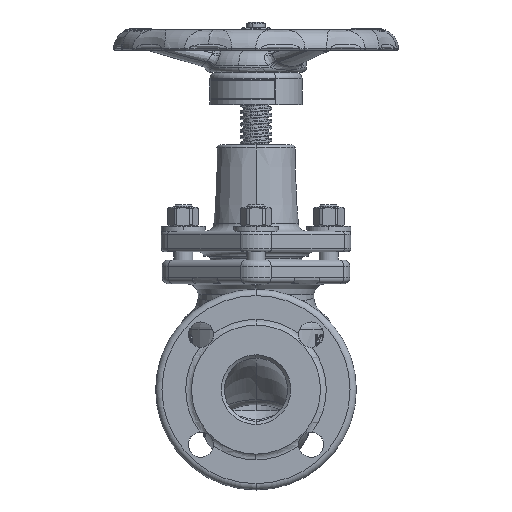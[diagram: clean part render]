
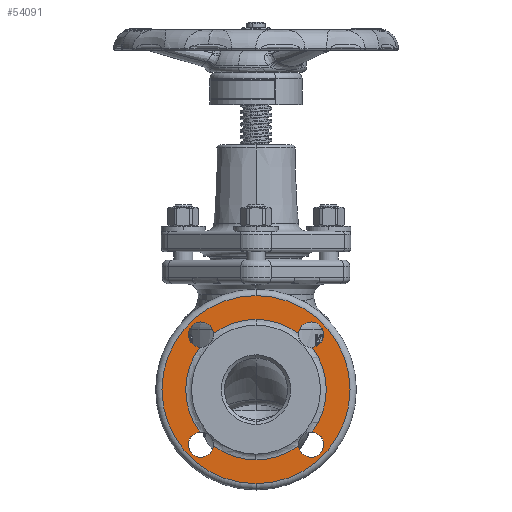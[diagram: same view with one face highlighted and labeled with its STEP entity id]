
A CAD part, left-side view. The second image highlights one B-rep face of the part: STEP entity #54091.
In plain terms, the highlighted planar face has unit normal (-1, 0, 0).
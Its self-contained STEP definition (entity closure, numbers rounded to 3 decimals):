
#6226=CARTESIAN_POINT('',(-80.9,0.,0.));
#6227=DIRECTION('',(-1.,0.,0.));
#6228=DIRECTION('',(0.,0.,1.));
#6229=AXIS2_PLACEMENT_3D('',#6226,#6227,#6228);
#6231=CARTESIAN_POINT('',(-80.9,0.,0.));
#6232=DIRECTION('',(-1.,0.,0.));
#6233=DIRECTION('',(0.,0.,-1.));
#6234=AXIS2_PLACEMENT_3D('',#6231,#6232,#6233);
#6236=CARTESIAN_POINT('',(-80.9,34.825,34.825));
#6237=DIRECTION('',(-1.,0.,0.));
#6238=DIRECTION('',(0.,-0.997,0.078));
#6239=AXIS2_PLACEMENT_3D('',#6236,#6237,#6238);
#6241=CARTESIAN_POINT('',(-80.9,34.825,34.825));
#6242=DIRECTION('',(-1.,0.,0.));
#6243=DIRECTION('',(0.,1.,0.));
#6244=AXIS2_PLACEMENT_3D('',#6241,#6242,#6243);
#6246=CARTESIAN_POINT('',(-80.9,34.825,-34.825));
#6247=DIRECTION('',(-1.,0.,0.));
#6248=DIRECTION('',(0.,0.078,0.997));
#6249=AXIS2_PLACEMENT_3D('',#6246,#6247,#6248);
#6251=CARTESIAN_POINT('',(-80.9,34.825,-34.825));
#6252=DIRECTION('',(-1.,0.,0.));
#6253=DIRECTION('',(0.,1.,0.));
#6254=AXIS2_PLACEMENT_3D('',#6251,#6252,#6253);
#6256=CARTESIAN_POINT('',(-80.9,-34.825,-34.825));
#6257=DIRECTION('',(-1.,0.,0.));
#6258=DIRECTION('',(0.,0.997,-0.078));
#6259=AXIS2_PLACEMENT_3D('',#6256,#6257,#6258);
#6261=CARTESIAN_POINT('',(-80.9,-34.825,-34.825));
#6262=DIRECTION('',(-1.,0.,0.));
#6263=DIRECTION('',(0.,-1.,0.));
#6264=AXIS2_PLACEMENT_3D('',#6261,#6262,#6263);
#6266=CARTESIAN_POINT('',(-80.9,-34.825,34.825));
#6267=DIRECTION('',(-1.,0.,0.));
#6268=DIRECTION('',(0.,-0.078,-0.997));
#6269=AXIS2_PLACEMENT_3D('',#6266,#6267,#6268);
#6271=CARTESIAN_POINT('',(-80.9,-34.825,34.825));
#6272=DIRECTION('',(-1.,0.,0.));
#6273=DIRECTION('',(0.,-1.,0.));
#6274=AXIS2_PLACEMENT_3D('',#6271,#6272,#6273);
#6319=CARTESIAN_POINT('',(-80.9,0.,0.));
#6320=DIRECTION('',(-1.,0.,0.));
#6321=DIRECTION('',(0.,0.,1.));
#6322=AXIS2_PLACEMENT_3D('',#6319,#6320,#6321);
#6329=CARTESIAN_POINT('',(-80.9,0.,0.));
#6330=DIRECTION('',(-1.,0.,0.));
#6331=DIRECTION('',(0.,0.604,-0.797));
#6332=AXIS2_PLACEMENT_3D('',#6329,#6330,#6331);
#6385=CARTESIAN_POINT('',(-80.9,0.,0.));
#6386=DIRECTION('',(-1.,0.,0.));
#6387=DIRECTION('',(0.,0.797,0.604));
#6388=AXIS2_PLACEMENT_3D('',#6385,#6386,#6387);
#6485=CARTESIAN_POINT('',(-80.9,0.,0.));
#6486=DIRECTION('',(1.,0.,0.));
#6487=DIRECTION('',(0.,-0.604,-0.797));
#6488=AXIS2_PLACEMENT_3D('',#6485,#6486,#6487);
#6505=CARTESIAN_POINT('',(-80.9,0.,0.));
#6506=DIRECTION('',(1.,0.,0.));
#6507=DIRECTION('',(0.,0.,1.));
#6508=AXIS2_PLACEMENT_3D('',#6505,#6506,#6507);
#6561=CARTESIAN_POINT('',(-80.9,0.,0.));
#6562=DIRECTION('',(1.,0.,0.));
#6563=DIRECTION('',(0.,-0.797,0.604));
#6564=AXIS2_PLACEMENT_3D('',#6561,#6562,#6563);
#40041=CARTESIAN_POINT('',(-80.9,0.,59.5));
#40042=CARTESIAN_POINT('',(-80.9,0.,-59.5));
#40043=VERTEX_POINT('',#40041);
#40044=VERTEX_POINT('',#40042);
#40697=CARTESIAN_POINT('',(-80.9,0.,44.466));
#40698=VERTEX_POINT('',#40697);
#40701=CARTESIAN_POINT('',(-80.9,0.,-44.466));
#40702=VERTEX_POINT('',#40701);
#41807=CARTESIAN_POINT('',(-80.9,-42.825,34.825));
#41808=CARTESIAN_POINT('',(-80.9,-26.849,35.445));
#41809=VERTEX_POINT('',#41807);
#41810=VERTEX_POINT('',#41808);
#41811=CARTESIAN_POINT('',(-80.9,-35.445,26.849));
#41812=VERTEX_POINT('',#41811);
#41818=CARTESIAN_POINT('',(-80.9,-42.825,-34.825));
#41819=CARTESIAN_POINT('',(-80.9,-35.445,-26.849));
#41820=VERTEX_POINT('',#41818);
#41821=VERTEX_POINT('',#41819);
#41822=CARTESIAN_POINT('',(-80.9,-26.849,-35.445));
#41823=VERTEX_POINT('',#41822);
#41829=CARTESIAN_POINT('',(-80.9,35.445,-26.849));
#41830=CARTESIAN_POINT('',(-80.9,42.825,-34.825));
#41831=VERTEX_POINT('',#41829);
#41832=VERTEX_POINT('',#41830);
#41833=CARTESIAN_POINT('',(-80.9,26.849,-35.445));
#41834=VERTEX_POINT('',#41833);
#41840=CARTESIAN_POINT('',(-80.9,26.849,35.445));
#41841=CARTESIAN_POINT('',(-80.9,42.825,34.825));
#41842=VERTEX_POINT('',#41840);
#41843=VERTEX_POINT('',#41841);
#41844=CARTESIAN_POINT('',(-80.9,35.445,26.849));
#41845=VERTEX_POINT('',#41844);
#54051=CARTESIAN_POINT('',(-80.9,0.,0.));
#54052=DIRECTION('',(-1.,0.,0.));
#54053=DIRECTION('',(0.,0.,1.));
#54054=AXIS2_PLACEMENT_3D('',#54051,#54052,#54053);
#54055=PLANE('',#54054);
#54056=ORIENTED_EDGE('',*,*,#54041,.F.);
#54058=ORIENTED_EDGE('',*,*,#54057,.F.);
#54059=EDGE_LOOP('',(#54056,#54058));
#54060=FACE_OUTER_BOUND('',#54059,.F.);
#54062=ORIENTED_EDGE('',*,*,#54061,.T.);
#54064=ORIENTED_EDGE('',*,*,#54063,.T.);
#54066=ORIENTED_EDGE('',*,*,#54065,.T.);
#54068=ORIENTED_EDGE('',*,*,#54067,.T.);
#54070=ORIENTED_EDGE('',*,*,#54069,.T.);
#54072=ORIENTED_EDGE('',*,*,#54071,.T.);
#54074=ORIENTED_EDGE('',*,*,#54073,.F.);
#54076=ORIENTED_EDGE('',*,*,#54075,.T.);
#54078=ORIENTED_EDGE('',*,*,#54077,.T.);
#54080=ORIENTED_EDGE('',*,*,#54079,.F.);
#54082=ORIENTED_EDGE('',*,*,#54081,.T.);
#54084=ORIENTED_EDGE('',*,*,#54083,.T.);
#54086=ORIENTED_EDGE('',*,*,#54085,.F.);
#54088=ORIENTED_EDGE('',*,*,#54087,.T.);
#54089=EDGE_LOOP('',(#54062,#54064,#54066,#54068,#54070,#54072,#54074,#54076,
#54078,#54080,#54082,#54084,#54086,#54088));
#54090=FACE_BOUND('',#54089,.F.);
#54091=ADVANCED_FACE('',(#54060,#54090),#54055,.T.);
#6230=CIRCLE('',#6229,59.5);
#6235=CIRCLE('',#6234,59.5);
#6240=CIRCLE('',#6239,8.);
#6245=CIRCLE('',#6244,8.);
#6250=CIRCLE('',#6249,8.);
#6255=CIRCLE('',#6254,8.);
#6260=CIRCLE('',#6259,8.);
#6265=CIRCLE('',#6264,8.);
#6270=CIRCLE('',#6269,8.);
#6275=CIRCLE('',#6274,8.);
#6323=CIRCLE('',#6322,44.466);
#6333=CIRCLE('',#6332,44.466);
#6389=CIRCLE('',#6388,44.466);
#6489=CIRCLE('',#6488,44.466);
#6509=CIRCLE('',#6508,44.466);
#6565=CIRCLE('',#6564,44.466);
#54041=EDGE_CURVE('',#40043,#40044,#6230,.T.);
#54057=EDGE_CURVE('',#40044,#40043,#6235,.T.);
#54061=EDGE_CURVE('',#41842,#41843,#6240,.T.);
#54063=EDGE_CURVE('',#41843,#41845,#6245,.T.);
#54065=EDGE_CURVE('',#41845,#41831,#6389,.T.);
#54067=EDGE_CURVE('',#41831,#41832,#6250,.T.);
#54069=EDGE_CURVE('',#41832,#41834,#6255,.T.);
#54071=EDGE_CURVE('',#41834,#40702,#6333,.T.);
#54073=EDGE_CURVE('',#41823,#40702,#6489,.T.);
#54075=EDGE_CURVE('',#41823,#41820,#6260,.T.);
#54077=EDGE_CURVE('',#41820,#41821,#6265,.T.);
#54079=EDGE_CURVE('',#41812,#41821,#6565,.T.);
#54081=EDGE_CURVE('',#41812,#41809,#6270,.T.);
#54083=EDGE_CURVE('',#41809,#41810,#6275,.T.);
#54085=EDGE_CURVE('',#40698,#41810,#6509,.T.);
#54087=EDGE_CURVE('',#40698,#41842,#6323,.T.);
